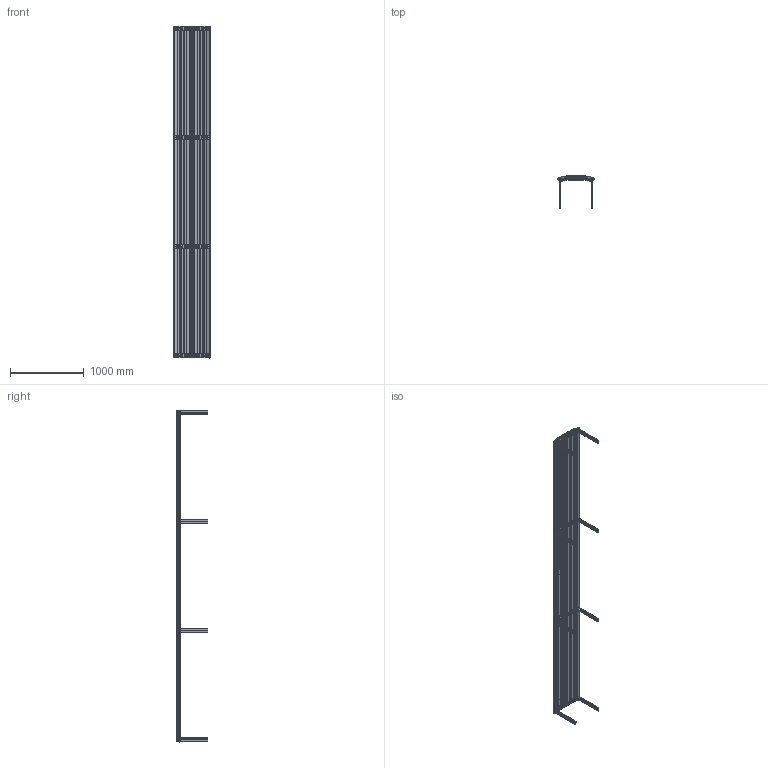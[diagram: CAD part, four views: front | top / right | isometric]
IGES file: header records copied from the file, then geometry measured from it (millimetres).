
Start section: SolidWorks IGES file using analytic representation for surfaces
Global section: file name: C:\SANTACOLE_PDM\Proyectos Catálogo\PROD-P06-035 -- NEOROMÁNTICO LIVIANO\6_Técnico comercial\3D WEB\NEOROMANTICO BANQUETA 100% ALUMINIO 450cm.IGS; native system: SolidWorks 2013; preprocessor: SolidWorks 2013; author: jordi.munoz; date: 150611.140212; units: millimetre
Bounding box: 491.14 x 429.97 x 4504.33 mm (x, y, z)
Surface area: 14099873 mm2 (no closed solid volume)
Topology: 0 solids, 0 shells, 6214 faces, 51355 edges, 51307 vertices
Faces by surface type: bspline 4094, revolution 2120
